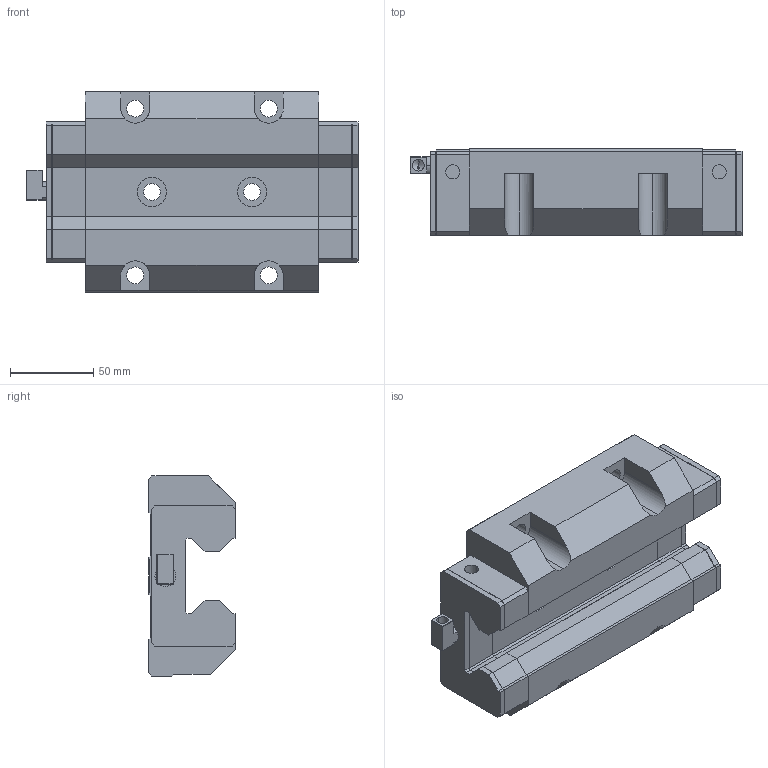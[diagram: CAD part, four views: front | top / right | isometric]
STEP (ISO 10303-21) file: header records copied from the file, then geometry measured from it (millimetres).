
FILE_DESCRIPTION (( 'STEP AP203' ), '1' );
FILE_NAME ('SGW45HC.STEP', '2025-07-11T04:57:25', ( 'Owner' ), ( 'Organization' ), 'SwSTEP 2.0', 'SolidWorks 2020', '' );
FILE_SCHEMA (( 'CONFIG_CONTROL_DESIGN' ));
Length unit declared in the file: millimetre
Products named in the file (1): SGW45HC
Bounding box: 199 x 52 x 120 mm (x, y, z)
Volume: 775757.6 mm3; surface area: 116551.9 mm2
Topology: 7 solids, 7 shells, 323 faces, 802 edges, 509 vertices
Faces by surface type: plane 257, cylinder 62, cone 4
Entity records: 9495 total; most frequent: CARTESIAN_POINT 1675, ORIENTED_EDGE 1600, DIRECTION 1562, EDGE_CURVE 800, LINE 658, VECTOR 658, VERTEX_POINT 509, AXIS2_PLACEMENT_3D 452
